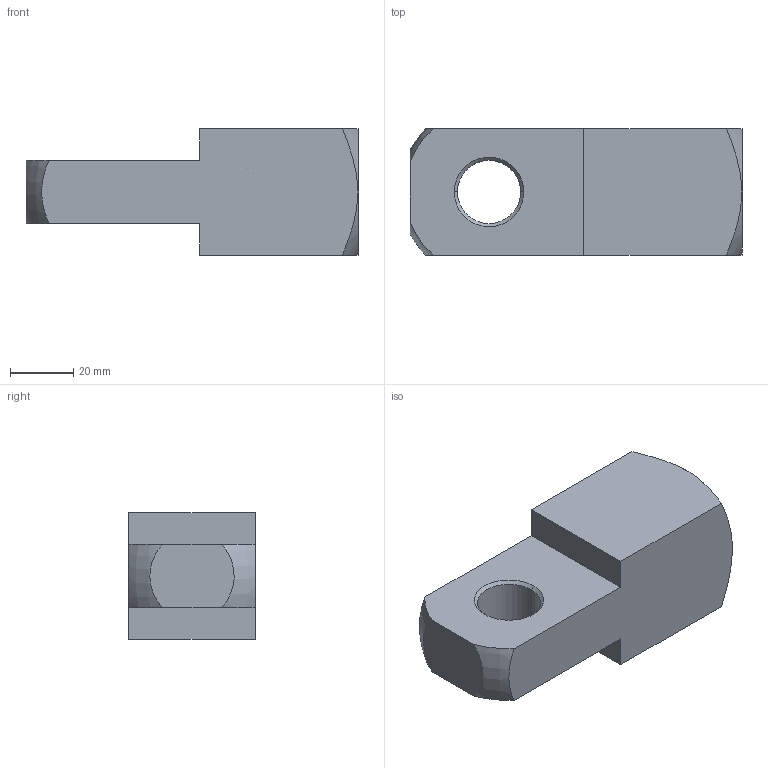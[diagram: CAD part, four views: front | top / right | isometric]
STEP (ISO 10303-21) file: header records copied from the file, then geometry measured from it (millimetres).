
FILE_DESCRIPTION (( 'STEP AP203' ), '1' );
FILE_NAME ('65653.W1020.step', '2014-01-22T12:18:18', ( 'User' ), ( '' ), 'SwSTEP 2.0', 'SolidWorks 2009', '' );
FILE_SCHEMA (( 'CONFIG_CONTROL_DESIGN' ));
Length unit declared in the file: millimetre
Products named in the file (1): 65653.W1020
Bounding box: 105 x 40 x 40 mm (x, y, z)
Volume: 101461.3 mm3; surface area: 20770.1 mm2
Topology: 1 solids, 1 shells, 31 faces, 74 edges, 45 vertices
Faces by surface type: cone 12, plane 11, cylinder 6, torus 2
Entity records: 1111 total; most frequent: CARTESIAN_POINT 321, DIRECTION 152, ORIENTED_EDGE 144, EDGE_CURVE 72, AXIS2_PLACEMENT_3D 60, VERTEX_POINT 45, EDGE_LOOP 35, LINE 32
